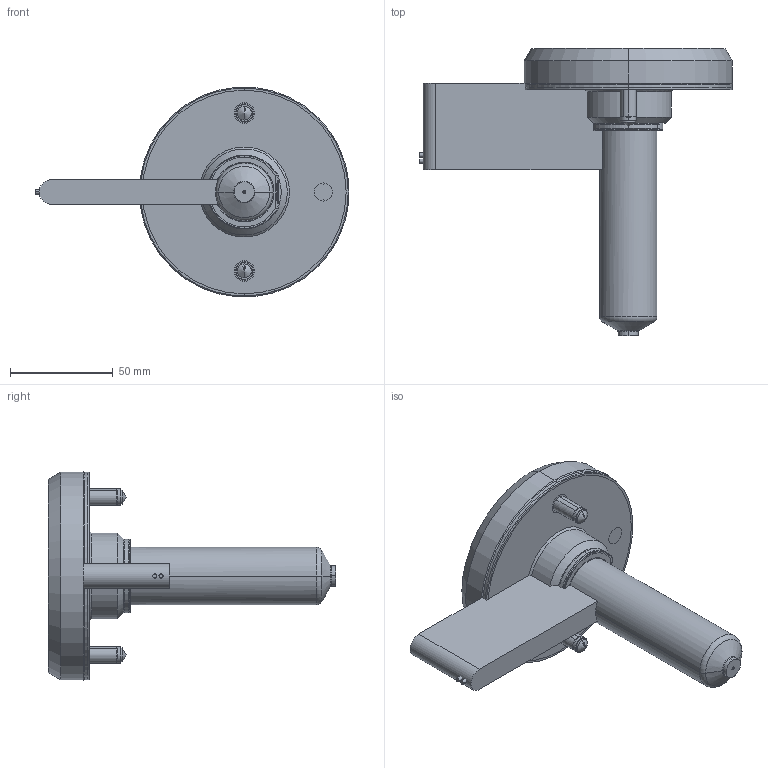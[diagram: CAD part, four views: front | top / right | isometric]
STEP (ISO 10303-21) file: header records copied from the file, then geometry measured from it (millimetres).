
FILE_DESCRIPTION (( 'STEP AP214' ), '1' );
FILE_NAME ('SOHSB6100-SOFBOP06.STEP', '2024-11-29T06:29:01', ( '' ), ( '' ), 'SwSTEP 2.0', 'SolidWorks 2022', '' );
FILE_SCHEMA (( 'AUTOMOTIVE_DESIGN' ));
Length unit declared in the file: millimetre
Products named in the file (11): SOHSB6100-SOFBOP06; EcoONE-HSB06-06006(A)_SONHC06; EcoONE-HSB06-Open Gate Full Body Standad Tip Assembly_SOFBOP06; EcoONE-HSB06-Point Gate Needle Tip-Standard_SOPGN0601; EcoONE-HSB06-Open Gate Cut-out Details_Sprue Gate or Full Body Gate; EcoONE-HSB06-00002(A)_SOHSBLR06; EcoONE-HSB06-06005_SOTC10200-J; hexagon socket head cap screws gb_GB_FASTENER_SCREWS_HSHCS M8X25-C; EcoONE-HSB06-06003(A)_SOHSBNB6100; EcoONE-HSB06-06004_SONH18095; EcoONE-HSB06-Open Gate Full Body Retainer Tip_SOFRT0601
Assembly tree (12 placements, depth 3):
  SOHSB6100-SOFBOP06
    EcoONE-HSB06-06003(A)_SOHSBNB6100
    EcoONE-HSB06-06004_SONH18095
    EcoONE-HSB06-06005_SOTC10200-J
    EcoONE-HSB06-06006(A)_SONHC06  x2
    EcoONE-HSB06-00002(A)_SOHSBLR06
    hexagon socket head cap screws gb_GB_FASTENER_SCREWS_HSHCS M8X25-C  x2
    EcoONE-HSB06-Open Gate Full Body Standad Tip Assembly_SOFBOP06
      EcoONE-HSB06-Open Gate Full Body Retainer Tip_SOFRT0601
      EcoONE-HSB06-Point Gate Needle Tip-Standard_SOPGN0601
    EcoONE-HSB06-Open Gate Cut-out Details_Sprue Gate or Full Body Gate
Bounding box: 153.01 x 140 x 102.14 mm (x, y, z)
Volume: 326555.5 mm3; surface area: 94315.8 mm2
Topology: 11 solids, 11 shells, 487 faces, 1228 edges, 774 vertices
Faces by surface type: cylinder 152, plane 132, bspline 96, cone 77, torus 22, sphere 8
Entity records: 28194 total; most frequent: CARTESIAN_POINT 17303, ORIENTED_EDGE 2236, DIRECTION 1883, EDGE_CURVE 1118, AXIS2_PLACEMENT_3D 761, VERTEX_POINT 711, EDGE_LOOP 485, ADVANCED_FACE 446
